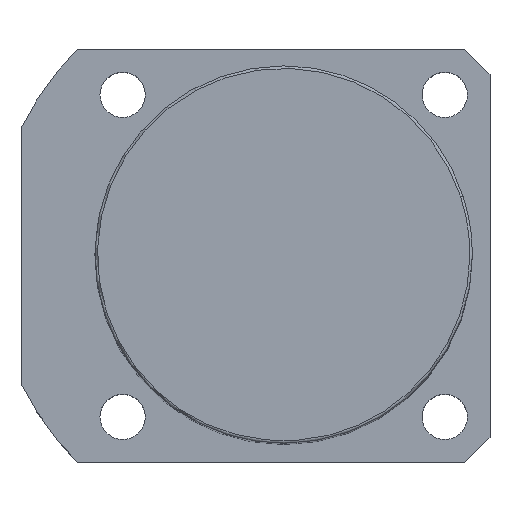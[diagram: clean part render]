
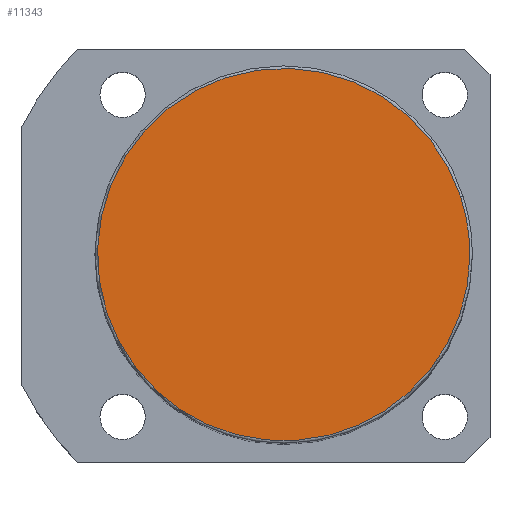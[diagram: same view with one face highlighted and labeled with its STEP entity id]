
A CAD part, top view. The second image highlights one B-rep face of the part: STEP entity #11343.
In plain terms, the highlighted planar face has unit normal (0, 0, 1).
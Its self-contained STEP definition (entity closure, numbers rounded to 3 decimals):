
#11309=CARTESIAN_POINT('',(37.0,0.0,163.0));
#11310=VERTEX_POINT('',#11309);
#11311=CARTESIAN_POINT('',(35.189,11.434,163.0));
#11312=VERTEX_POINT('',#11311);
#11313=CARTESIAN_POINT('',(0.0,0.0,163.0));
#11314=DIRECTION('',(0.0,0.0,1.0));
#11315=DIRECTION('',(1.0,0.0,0.0));
#11316=AXIS2_PLACEMENT_3D('',#11313,#11314,#11315);
#11317=CIRCLE('',#11316,37.0);
#11318=EDGE_CURVE('no 5132',#11310,#11312,#11317,.T.);
#11319=ORIENTED_EDGE('',*,*,#11318,.T.);
#11320=CARTESIAN_POINT('',(-35.189,-11.434,163.0));
#11321=VERTEX_POINT('',#11320);
#11322=CARTESIAN_POINT('',(0.0,0.0,163.0));
#11323=DIRECTION('',(0.0,0.0,1.0));
#11324=DIRECTION('',(1.0,0.0,0.0));
#11325=AXIS2_PLACEMENT_3D('',#11322,#11323,#11324);
#11326=CIRCLE('',#11325,37.0);
#11327=EDGE_CURVE('no 5138',#11312,#11321,#11326,.T.);
#11328=ORIENTED_EDGE('',*,*,#11327,.T.);
#11329=CARTESIAN_POINT('',(0.0,0.0,163.0));
#11330=DIRECTION('',(0.0,0.0,1.0));
#11331=DIRECTION('',(1.0,0.0,0.0));
#11332=AXIS2_PLACEMENT_3D('',#11329,#11330,#11331);
#11333=CIRCLE('',#11332,37.0);
#11334=EDGE_CURVE('no 5142',#11321,#11310,#11333,.T.);
#11335=ORIENTED_EDGE('',*,*,#11334,.T.);
#11336=EDGE_LOOP('',(#11319,#11328,#11335));
#11337=FACE_OUTER_BOUND('',#11336,.T.);
#11338=CARTESIAN_POINT('',(0.0,0.0,163.0));
#11339=DIRECTION('',(0.0,0.0,1.0));
#11340=DIRECTION('',(1.0,0.0,0.0));
#11341=AXIS2_PLACEMENT_3D('',#11338,#11339,#11340);
#11342=PLANE('',#11341);
#11343=ADVANCED_FACE('no 5123',(#11337),#11342,.T.);
